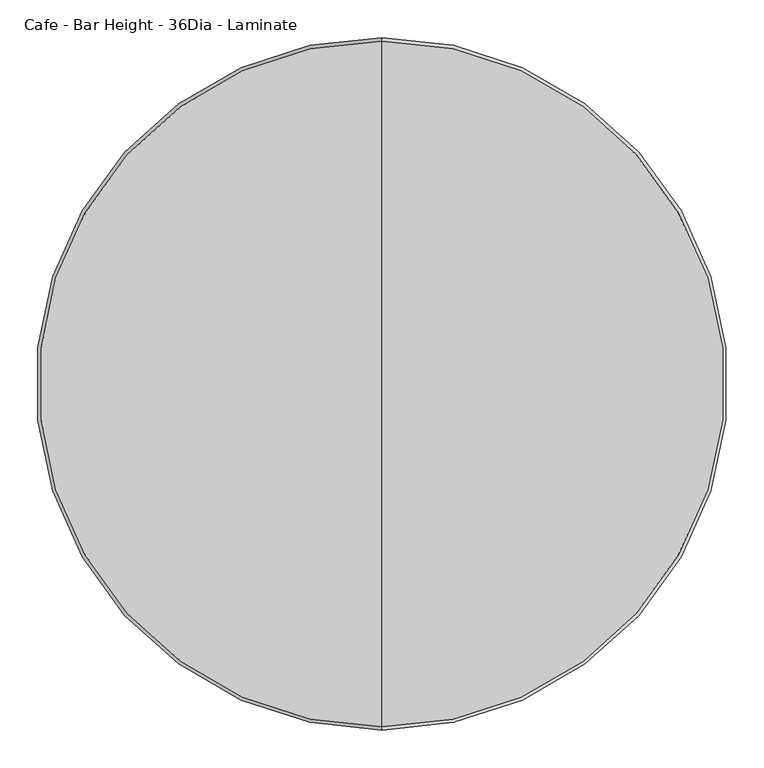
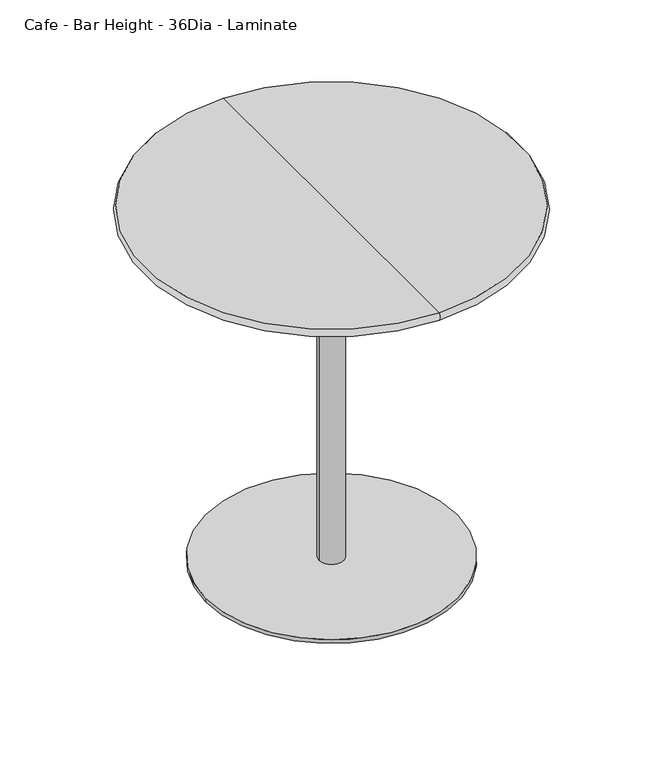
"""IFC4 building model written with IfcOpenShell, lengths in millimetres: furniture geometry, Steelcase Coalesse - Enea - Table - Single Base : Cafe - Bar Height - 36Dia - Laminate."""

from ifc_helpers import new_model, si_unit, point, frame, frame_2d, origin, origin_with_axes, place, context, project, spatial, circle_curve, ellipse_curve, trimmed, segment, composite_curve, outline, extrude, source, transform, mapped, element, save
from ifc_brep_helpers import plane_surface, revolved_surface, advanced_brep


def cafe_bar_height_36dia_laminate_e5c98c85(model_context):
    return source(origin(), model_context, "Body", "SolidModel", [
        extrude(outline(composite_curve([segment(trimmed(circle_curve(frame_2d((537.718, -284.0746893)), 25.4), [point((512.318, -284.0746893))], [point((563.118, -284.0746893))], False, "CARTESIAN"), True, "CONTINUOUS"), segment(trimmed(circle_curve(frame_2d((537.718, -284.0746893)), 25.4), [point((563.118, -284.0746893))], [point((512.318, -284.0746893))], False, "CARTESIAN"), True, "CONTINUOUS")], self_intersect=False)), origin_with_axes(), (0.0, 0.0, 1.0), 6.35),
        extrude(outline(composite_curve([segment(trimmed(circle_curve(frame_2d((791.3613107, -537.3772238)), 25.4), [point((765.9613107, -537.3772238))], [point((816.7613107, -537.3772238))], False, "CARTESIAN"), True, "CONTINUOUS"), segment(trimmed(circle_curve(frame_2d((791.3613107, -537.3772238)), 25.4), [point((816.7613107, -537.3772238))], [point((765.9613107, -537.3772238))], False, "CARTESIAN"), True, "CONTINUOUS")], self_intersect=False)), origin_with_axes(), (0.0, 0.0, 1.0), 6.35),
        extrude(outline(composite_curve([segment(trimmed(circle_curve(frame_2d((284.0746893, -537.3772238)), 25.4), [point((258.6746893, -537.3772238))], [point((309.4746893, -537.3772238))], False, "CARTESIAN"), True, "CONTINUOUS"), segment(trimmed(circle_curve(frame_2d((284.0746893, -537.3772238)), 25.4), [point((309.4746893, -537.3772238))], [point((258.6746893, -537.3772238))], False, "CARTESIAN"), True, "CONTINUOUS")], self_intersect=False)), origin_with_axes(), (0.0, 0.0, 1.0), 6.35),
        extrude(outline(composite_curve([segment(trimmed(circle_curve(frame_2d((537.718, -790.6797584)), 25.4), [point((512.318, -790.6797584))], [point((563.118, -790.6797584))], False, "CARTESIAN"), True, "CONTINUOUS"), segment(trimmed(circle_curve(frame_2d((537.718, -790.6797584)), 25.4), [point((563.118, -790.6797584))], [point((512.318, -790.6797584))], False, "CARTESIAN"), True, "CONTINUOUS")], self_intersect=False)), origin_with_axes(), (0.0, 0.0, 1.0), 6.35),
        advanced_brep(
        [(537.718, -990.6075871, 914.4), (537.718, -84.8284129, 914.4), (537.718, -537.718, 914.4), (537.718, -990.6075871, 895.35), (537.718, -84.8284129, 895.35), (537.718, -537.718, 895.35)],
        [
            (0, 1, circle_curve(frame((537.718, -537.718, 914.4), z_axis=(0.0, 0.0, 1.0), x_axis=(0.0, 1.0, 0.0)), 452.8895871)),
            (1, 2),
            (2, 0),
            (1, 0, circle_curve(frame((537.718, -537.718, 914.4), z_axis=(0.0, 0.0, 1.0), x_axis=(0.0, 1.0, 0.0)), 452.8895871)),
            (3, 4, circle_curve(frame((537.718, -537.718, 895.35), z_axis=(0.0, 0.0, 1.0), x_axis=(0.0, 1.0, 0.0)), 452.8895871)),
            (4, 1, circle_curve(frame((537.718, -93.1968446, 904.875), z_axis=(1.0, 0.0, 0.0), x_axis=(0.0, -1.0, 0.0)), 12.6789697)),
            (0, 3, circle_curve(frame((537.718, -982.2391554, 904.875), z_axis=(1.0, 0.0, 0.0), x_axis=(0.0, 1.0, 0.0)), 12.6789697)),
            (4, 3, circle_curve(frame((537.718, -537.718, 895.35), z_axis=(0.0, 0.0, 1.0), x_axis=(0.0, 1.0, 0.0)), 452.8895871)),
            (5, 4),
            (3, 5),
        ],
        [
            plane_surface(frame((537.718, -537.718, 914.4), z_axis=(0.0, 0.0, 1.0), x_axis=(0.0, 1.0, 0.0))),
            revolved_surface(trimmed(ellipse_curve(frame((537.718, -93.1968446, 904.875), z_axis=(-1.0, 0.0, 0.0), x_axis=(0.0, -1.0, 0.0)), 12.6789697, 12.6789697), [point((537.718, -84.8284129, 914.4))], [point((537.718, -84.8284129, 895.35))], True, "CARTESIAN"), (537.718, -537.718, 955.9678651), (0.0, 0.0, -1.0)),
            plane_surface(frame((537.718, -537.718, 895.35), z_axis=(0.0, 0.0, -1.0), x_axis=(0.0, 1.0, 0.0))),
        ],
        [
            (0, [[1, 2, 3]]),
            (0, [[4, -3, -2]]),
            (1, [[5, 6, -1, 7]]),
            (1, [[8, -7, -4, -6]]),
            (2, [[9, -5, 10]]),
            (2, [[-10, -8, -9]]),
        ],
    ),
        extrude(outline(composite_curve([segment(trimmed(circle_curve(frame_2d((537.718, -537.718)), 304.8), [point((842.518, -537.718))], [point((232.918, -537.718))], False, "CARTESIAN"), True, "CONTINUOUS"), segment(trimmed(circle_curve(frame_2d((537.718, -537.718)), 304.8), [point((232.918, -537.718))], [point((842.518, -537.718))], False, "CARTESIAN"), True, "CONTINUOUS")], self_intersect=False)), frame((0.0, 0.0, 6.35), z_axis=(0.0, 0.0, 1.0), x_axis=(1.0, 0.0, 0.0)), (0.0, 0.0, 1.0), 9.525),
        extrude(outline(composite_curve([segment(trimmed(circle_curve(frame_2d((537.7182907, -537.7179273)), 30.0214725), [point((567.7397632, -537.7179273))], [point((507.6968182, -537.7179273))], False, "CARTESIAN"), True, "CONTINUOUS"), segment(trimmed(circle_curve(frame_2d((537.7182907, -537.7179273)), 30.0214725), [point((507.6968182, -537.7179273))], [point((567.7397632, -537.7179273))], False, "CARTESIAN"), True, "CONTINUOUS")], self_intersect=False)), frame((0.0, 0.0, 15.875), z_axis=(0.0, 0.0, 1.0), x_axis=(1.0, 0.0, 0.0)), (0.0, 0.0, 1.0), 879.475),
    ])


if __name__ == "__main__":
    model = new_model("IFC4")
    model_context = context("Model", 3, world=origin())
    ifc_project = project(units=[si_unit("LENGTHUNIT", "METRE", prefix="MILLI")], contexts=[model_context])
    site = spatial("IfcSite", under=ifc_project)
    building = spatial("IfcBuilding", under=site)
    placement = place(None, origin())
    cafe_bar_height_36dia_laminate_shape = cafe_bar_height_36dia_laminate_e5c98c85(model_context)
    element("IfcFurniture", 1, ObjectType="Steelcase Coalesse - Enea - Table - Single Base : Cafe - Bar Height - 36Dia - Laminate", at=placement, inside=building, context=model_context, shape_type="MappedRepresentation", body=[
        mapped(cafe_bar_height_36dia_laminate_shape, transform((0.0, 0.0, 0.0), x_axis=(1.0, 0.0, 0.0), y_axis=(0.0, 1.0, 0.0), z_axis=(0.0, 0.0, 1.0))),
    ])
    save(model, "model.ifc")
